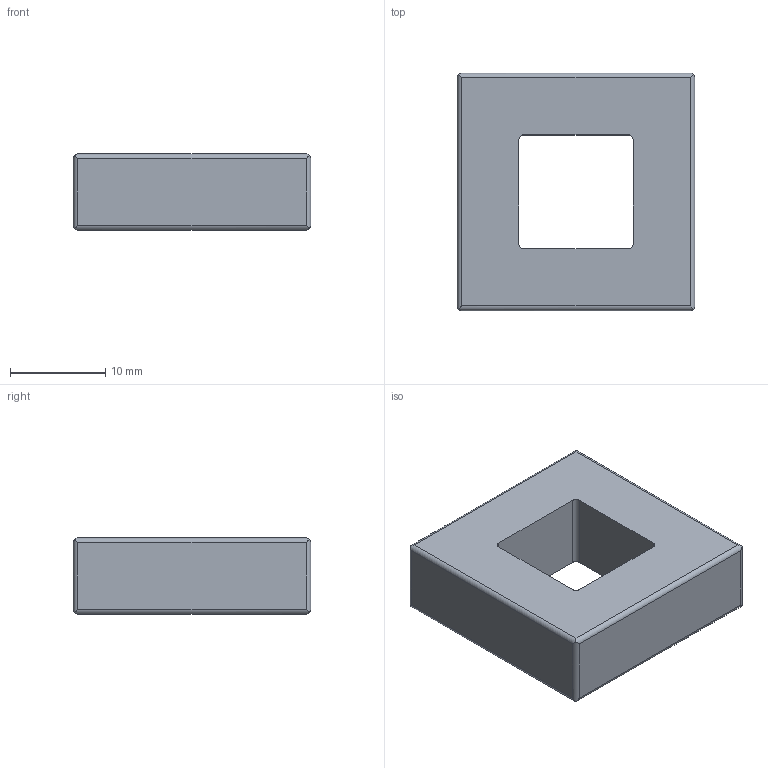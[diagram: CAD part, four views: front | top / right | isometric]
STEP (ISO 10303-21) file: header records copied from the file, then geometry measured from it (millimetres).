
FILE_DESCRIPTION( ( '' ), '1' );
FILE_NAME( 'C:/Documents and Settings/Nikhil/Desktop/Nik/Done/9113209.stp', '2013-10-23T11:32:09', ( '' ), ( '' ), ' ', ' ', ' ' );
FILE_SCHEMA( ( 'automotive_design' ) );
Length unit declared in the file: millimetre
Products named in the file (1): 1
Bounding box: 25 x 25 x 8 mm (x, y, z)
Volume: 3762.1 mm3; surface area: 2165.3 mm2
Topology: 1 solids, 1 shells, 29 faces, 78 edges, 52 vertices
Faces by surface type: cylinder 18, plane 11
Entity records: 1838 total; most frequent: DIRECTION 174, STYLED_ITEM 160, PRESENTATION_STYLE_ASSIGNMENT 160, CARTESIAN_POINT 160, COLOUR_RGB 160, ORIENTED_EDGE 156, EDGE_CURVE 78, CURVE_STYLE 78
